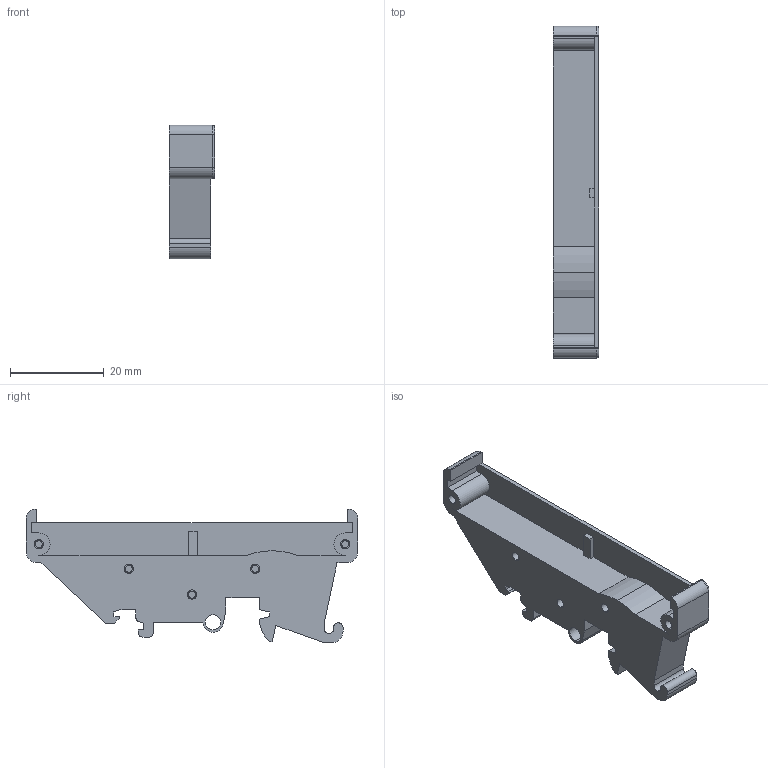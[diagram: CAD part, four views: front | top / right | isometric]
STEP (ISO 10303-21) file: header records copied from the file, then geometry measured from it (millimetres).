
FILE_DESCRIPTION (( 'STEP AP203' ), '1' );
FILE_NAME ('SP7-M.STEP', '2019-09-12T16:56:07', ( '' ), ( '' ), 'SwSTEP 2.0', 'SolidWorks 2012', '' );
FILE_SCHEMA (( 'CONFIG_CONTROL_DESIGN' ));
Length unit declared in the file: millimetre
Products named in the file (1): SP7-M
Bounding box: 9.7 x 71 x 28.6 mm (x, y, z)
Volume: 8231.9 mm3; surface area: 5388.2 mm2
Topology: 1 solids, 1 shells, 131 faces, 338 edges, 222 vertices
Faces by surface type: plane 71, cylinder 56, torus 4
Entity records: 4125 total; most frequent: CARTESIAN_POINT 736, DIRECTION 714, ORIENTED_EDGE 676, EDGE_CURVE 338, AXIS2_PLACEMENT_3D 248, VERTEX_POINT 222, VECTOR 218, LINE 218
